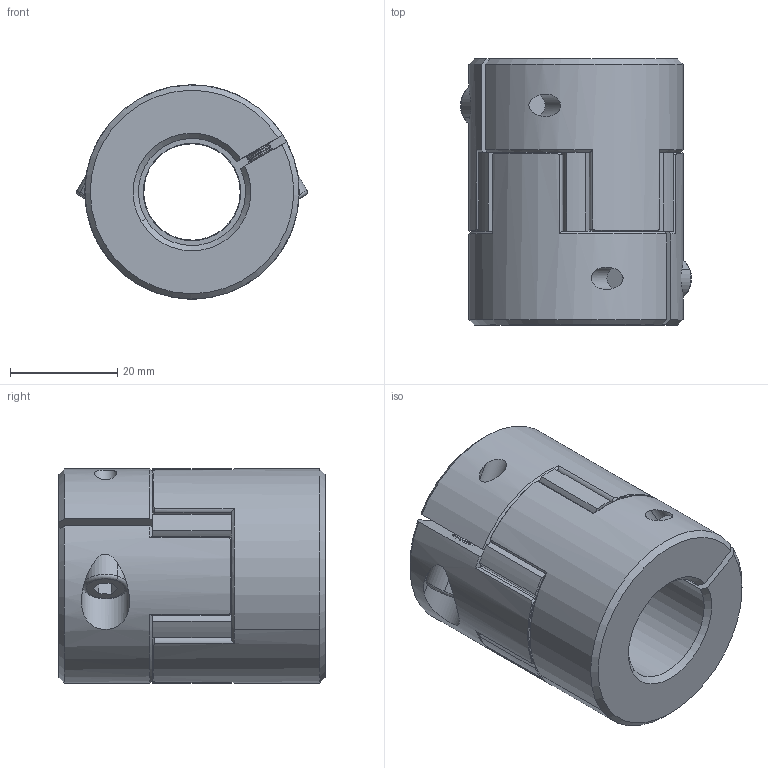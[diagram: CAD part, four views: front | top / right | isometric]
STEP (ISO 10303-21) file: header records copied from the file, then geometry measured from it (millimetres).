
FILE_DESCRIPTION (( 'STEP AP203' ), '1' );
FILE_NAME ('LF-B-D40L50-18-20.STEP', '2021-10-25T03:13:04', ( '' ), ( '' ), 'SwSTEP 2.0', 'SolidWorks 2018', '' );
FILE_SCHEMA (( 'CONFIG_CONTROL_DESIGN' ));
Length unit declared in the file: millimetre
Products named in the file (1): LF-B-D40L50-18-20
Bounding box: 43.11 x 49.7 x 40 mm (x, y, z)
Volume: 47096.9 mm3; surface area: 14606.3 mm2
Topology: 1 solids, 7 shells, 470 faces, 1113 edges, 660 vertices
Faces by surface type: cone 170, cylinder 169, plane 127, torus 4
Entity records: 13932 total; most frequent: CARTESIAN_POINT 2888, DIRECTION 2501, ORIENTED_EDGE 2218, EDGE_CURVE 1109, AXIS2_PLACEMENT_3D 1037, VERTEX_POINT 660, CIRCLE 566, EDGE_LOOP 487
